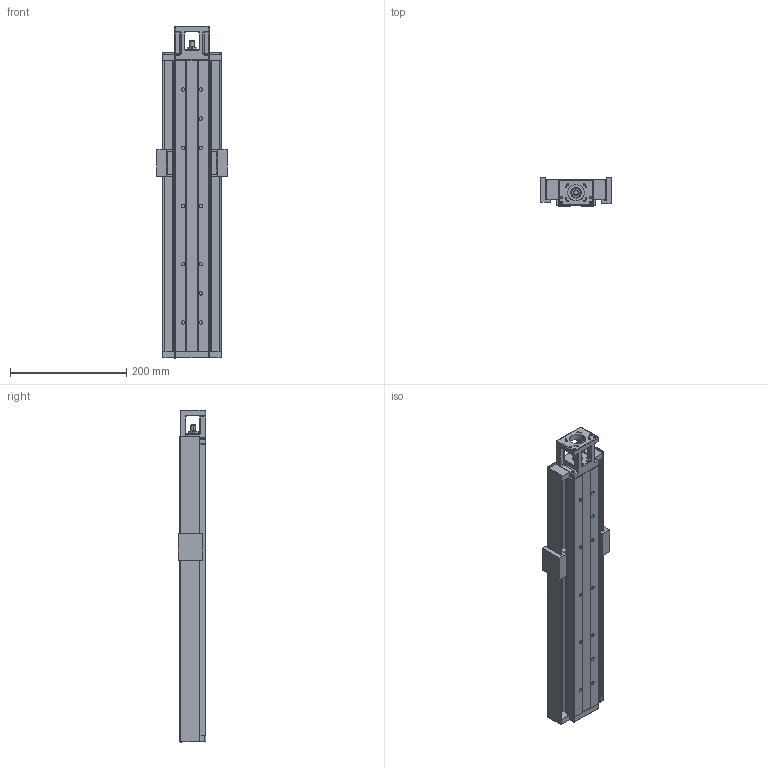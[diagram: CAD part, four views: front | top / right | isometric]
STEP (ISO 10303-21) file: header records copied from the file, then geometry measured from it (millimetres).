
FILE_DESCRIPTION (( 'STEP AP203' ), '1' );
FILE_NAME ('hkk60-500a1f0s.STEP', '2019-10-31T03:17:49', ( '微软用户' ), ( '微软中国' ), 'SwSTEP 2.0', 'SolidWorks 2016', '' );
FILE_SCHEMA (( 'CONFIG_CONTROL_DESIGN' ));
Length unit declared in the file: millimetre
Products named in the file (3): hkk60-300_9; hkk60賑怢_9; hkk60-500a1f0s
Assembly tree (2 placements, depth 2):
  hkk60-500a1f0s
    hkk60-300_9
    hkk60賑怢_9
Bounding box: 121 x 48 x 570 mm (x, y, z)
Volume: 900500.9 mm3; surface area: 409447.9 mm2
Topology: 45 solids, 53 shells, 1438 faces, 3636 edges, 2210 vertices
Faces by surface type: cylinder 528, plane 484, cone 215, bspline 211
Entity records: 62181 total; most frequent: CARTESIAN_POINT 29201, ORIENTED_EDGE 6946, DIRECTION 6444, EDGE_CURVE 3473, AXIS2_PLACEMENT_3D 2357, VERTEX_POINT 2210, VECTOR 1730, LINE 1730
